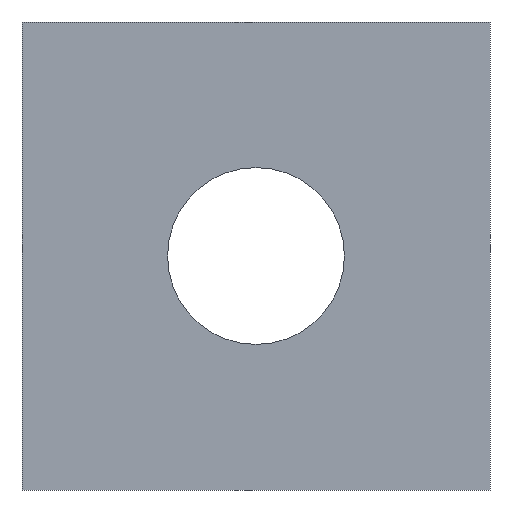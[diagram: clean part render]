
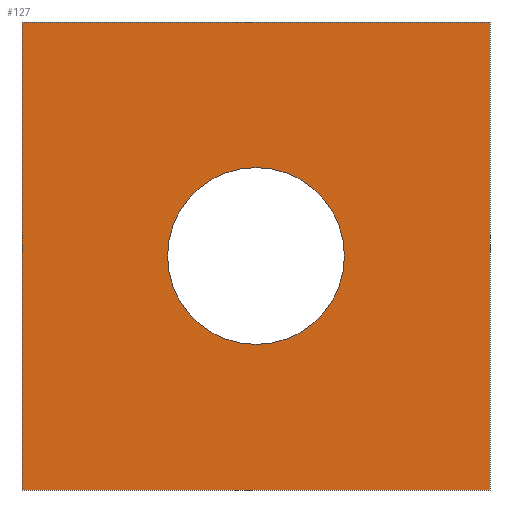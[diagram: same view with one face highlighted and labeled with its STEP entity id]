
A CAD part, front view. The second image highlights one B-rep face of the part: STEP entity #127.
In plain terms, the highlighted planar face has unit normal (0, -1, 0).
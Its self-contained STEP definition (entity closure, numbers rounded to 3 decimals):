
#21=CIRCLE('',#148,3.4);
#31=ORIENTED_EDGE('',*,*,#52,.T.);
#32=ORIENTED_EDGE('',*,*,#59,.F.);
#33=ORIENTED_EDGE('',*,*,#58,.F.);
#34=ORIENTED_EDGE('',*,*,#60,.T.);
#35=ORIENTED_EDGE('',*,*,#61,.T.);
#52=EDGE_CURVE('',#67,#65,#76,.T.);
#58=EDGE_CURVE('',#72,#69,#82,.T.);
#59=EDGE_CURVE('',#69,#65,#83,.T.);
#60=EDGE_CURVE('',#72,#67,#84,.T.);
#61=EDGE_CURVE('',#73,#73,#21,.T.);
#65=VERTEX_POINT('',#189);
#67=VERTEX_POINT('',#192);
#69=VERTEX_POINT('',#198);
#72=VERTEX_POINT('',#203);
#73=VERTEX_POINT('',#209);
#76=LINE('',#191,#88);
#82=LINE('',#204,#94);
#83=LINE('',#206,#95);
#84=LINE('',#207,#96);
#88=VECTOR('',#159,1000.);
#94=VECTOR('',#167,1000.);
#95=VECTOR('',#170,1000.);
#96=VECTOR('',#171,1000.);
#101=EDGE_LOOP('',(#31,#32,#33,#34));
#102=EDGE_LOOP('',(#35));
#111=FACE_BOUND('',#101,.T.);
#112=FACE_BOUND('',#102,.T.);
#121=PLANE('',#147);
#127=ADVANCED_FACE('',(#111,#112),#121,.F.);
#147=AXIS2_PLACEMENT_3D('',#205,#168,#169);
#148=AXIS2_PLACEMENT_3D('',#208,#172,#173);
#159=DIRECTION('',(0.,0.,1.));
#167=DIRECTION('',(0.,0.,1.));
#168=DIRECTION('',(0.,1.,0.));
#169=DIRECTION('',(0.,0.,1.));
#170=DIRECTION('',(1.,0.,0.));
#171=DIRECTION('',(1.,0.,0.));
#172=DIRECTION('',(0.,1.,0.));
#173=DIRECTION('',(0.,0.,1.));
#189=CARTESIAN_POINT('',(0.,-858.048,-2380.312));
#191=CARTESIAN_POINT('',(0.,-858.048,-2380.312));
#192=CARTESIAN_POINT('',(0.,-858.048,-2398.312));
#198=CARTESIAN_POINT('',(-18.,-858.048,-2380.312));
#203=CARTESIAN_POINT('',(-18.,-858.048,-2398.312));
#204=CARTESIAN_POINT('',(-18.,-858.048,-2380.312));
#205=CARTESIAN_POINT('',(-18.,-858.048,-2380.312));
#206=CARTESIAN_POINT('',(-18.,-858.048,-2380.312));
#207=CARTESIAN_POINT('',(-18.,-858.048,-2398.312));
#208=CARTESIAN_POINT('',(-9.,-858.048,-2389.312));
#209=CARTESIAN_POINT('',(-9.,-858.048,-2385.912));
